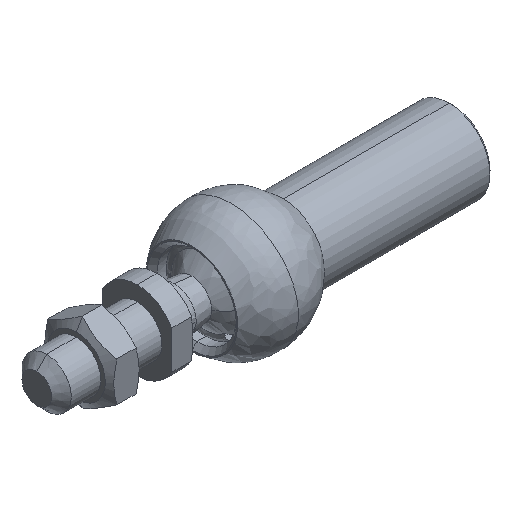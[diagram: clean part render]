
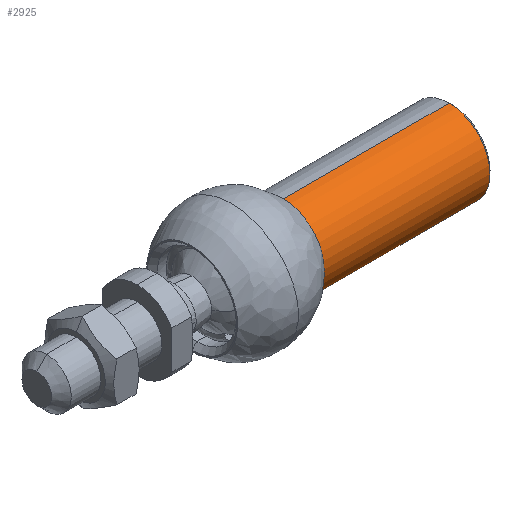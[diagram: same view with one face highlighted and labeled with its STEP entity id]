
A CAD part, isometric view. The second image highlights one B-rep face of the part: STEP entity #2925.
In plain terms, the highlighted cylindrical face has radius 4.15 mm (diameter 8.3 mm), a partial arc.
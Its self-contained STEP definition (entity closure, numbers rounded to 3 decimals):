
#20 = DIRECTION ( 'NONE',  ( -1., 0., 0. ) ) ;
#188 = DIRECTION ( 'NONE',  ( -1., 0., 0. ) ) ;
#216 = EDGE_CURVE ( 'NONE', #3019, #1535, #2768, .T. ) ;
#257 = CARTESIAN_POINT ( 'NONE',  ( -0.304, 0., 4.15 ) ) ;
#366 = DIRECTION ( 'NONE',  ( 1., 0., 0. ) ) ;
#418 = VECTOR ( 'NONE', #1796, 1000. ) ;
#579 = EDGE_CURVE ( 'NONE', #1470, #2166, #3017, .T. ) ;
#617 = EDGE_CURVE ( 'NONE', #1535, #2166, #2983, .T. ) ;
#629 = CARTESIAN_POINT ( 'NONE',  ( -8.568, 0., -4.15 ) ) ;
#700 = CARTESIAN_POINT ( 'NONE',  ( -0.304, 0., 0. ) ) ;
#732 = FACE_OUTER_BOUND ( 'NONE', #1416, .T. ) ;
#832 = CARTESIAN_POINT ( 'NONE',  ( -17.132, 0., 0. ) ) ;
#895 = CARTESIAN_POINT ( 'NONE',  ( -8.568, 0., 4.15 ) ) ;
#1040 = CIRCLE ( 'NONE', #1986, 4.15 ) ;
#1105 = CARTESIAN_POINT ( 'NONE',  ( -8.568, 0., 0. ) ) ;
#1118 = DIRECTION ( 'NONE',  ( 0., 0., 1. ) ) ;
#1259 = AXIS2_PLACEMENT_3D ( 'NONE', #832, #366, #2960 ) ;
#1369 = ORIENTED_EDGE ( 'NONE', *, *, #617, .T. ) ;
#1416 = EDGE_LOOP ( 'NONE', ( #2170, #2018, #2878, #1369 ) ) ;
#1470 = VERTEX_POINT ( 'NONE', #2558 ) ;
#1535 = VERTEX_POINT ( 'NONE', #2048 ) ;
#1637 = DIRECTION ( 'NONE',  ( 0., 0., 1. ) ) ;
#1686 = CYLINDRICAL_SURFACE ( 'NONE', #2652, 4.15 ) ;
#1796 = DIRECTION ( 'NONE',  ( -1., 0., 0. ) ) ;
#1986 = AXIS2_PLACEMENT_3D ( 'NONE', #700, #20, #1637 ) ;
#2018 = ORIENTED_EDGE ( 'NONE', *, *, #2224, .T. ) ;
#2048 = CARTESIAN_POINT ( 'NONE',  ( -17.132, 0., 4.15 ) ) ;
#2166 = VERTEX_POINT ( 'NONE', #2498 ) ;
#2170 = ORIENTED_EDGE ( 'NONE', *, *, #579, .F. ) ;
#2224 = EDGE_CURVE ( 'NONE', #1470, #3019, #1040, .T. ) ;
#2498 = CARTESIAN_POINT ( 'NONE',  ( -17.132, 0., -4.15 ) ) ;
#2558 = CARTESIAN_POINT ( 'NONE',  ( -0.304, 0., -4.15 ) ) ;
#2652 = AXIS2_PLACEMENT_3D ( 'NONE', #1105, #188, #1118 ) ;
#2738 = DIRECTION ( 'NONE',  ( -1., 0., 0. ) ) ;
#2768 = LINE ( 'NONE', #895, #418 ) ;
#2878 = ORIENTED_EDGE ( 'NONE', *, *, #216, .T. ) ;
#2925 = ADVANCED_FACE ( 'NONE', ( #732 ), #1686, .T. ) ;
#2945 = VECTOR ( 'NONE', #2738, 1000. ) ;
#2960 = DIRECTION ( 'NONE',  ( 0., 0., 1. ) ) ;
#2983 = CIRCLE ( 'NONE', #1259, 4.15 ) ;
#3017 = LINE ( 'NONE', #629, #2945 ) ;
#3019 = VERTEX_POINT ( 'NONE', #257 ) ;
